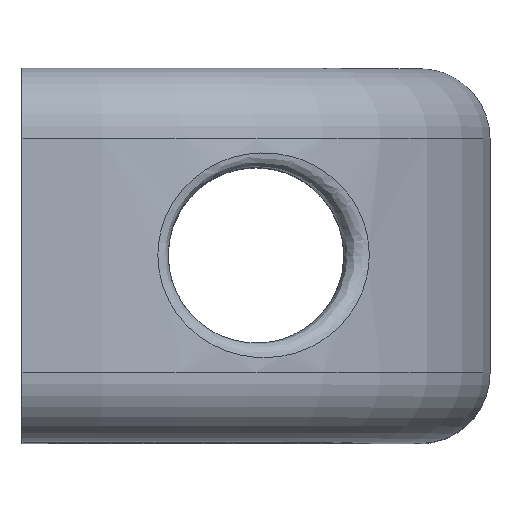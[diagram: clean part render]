
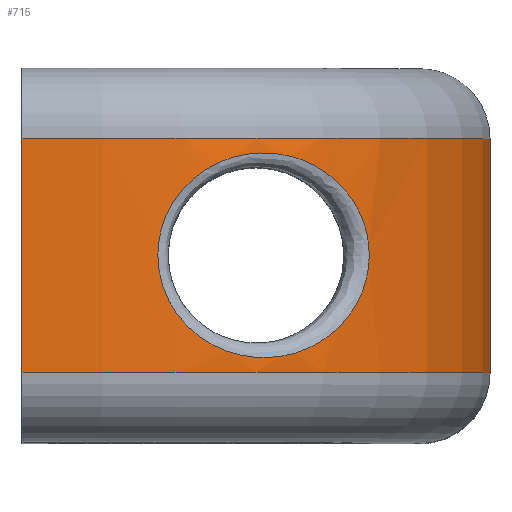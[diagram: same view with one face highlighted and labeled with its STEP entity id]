
A CAD part, top view. The second image highlights one B-rep face of the part: STEP entity #715.
In plain terms, the highlighted cylindrical face has radius 16 mm (diameter 32 mm), a partial arc.
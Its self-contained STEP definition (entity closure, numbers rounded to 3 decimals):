
#30=FACE_BOUND('',#131,.T.);
#37=B_SPLINE_CURVE_WITH_KNOTS('',3,(#1262,#1263,#1264,#1265,#1266,#1267,
#1268,#1269,#1270,#1271,#1272,#1273,#1274,#1275,#1276,#1277,#1278),
 .UNSPECIFIED.,.T.,.F.,(4,1,1,1,1,1,1,1,1,1,1,1,1,1,4),(-1.967,
-1.827,-1.686,-1.405,-1.265,
-1.124,-1.03,-0.937,-0.843,
-0.749,-0.656,-0.562,-0.281,
-0.141,0.),.UNSPECIFIED.);
#84=FACE_OUTER_BOUND('',#130,.T.);
#130=EDGE_LOOP('',(#523,#524,#525,#526));
#131=EDGE_LOOP('',(#527));
#173=LINE('',#1106,#228);
#178=LINE('',#1288,#233);
#228=VECTOR('',#864,8.);
#233=VECTOR('',#899,8.);
#290=CIRCLE('',#786,16.);
#291=CIRCLE('',#787,16.);
#316=VERTEX_POINT('',#1058);
#322=VERTEX_POINT('',#1104);
#327=VERTEX_POINT('',#1242);
#330=VERTEX_POINT('',#1284);
#331=VERTEX_POINT('',#1286);
#391=EDGE_CURVE('',#316,#322,#173,.T.);
#401=EDGE_CURVE('',#327,#327,#37,.T.);
#404=EDGE_CURVE('',#316,#330,#290,.T.);
#405=EDGE_CURVE('',#331,#322,#291,.T.);
#406=EDGE_CURVE('',#331,#330,#178,.T.);
#523=ORIENTED_EDGE('',*,*,#404,.F.);
#524=ORIENTED_EDGE('',*,*,#391,.T.);
#525=ORIENTED_EDGE('',*,*,#405,.F.);
#526=ORIENTED_EDGE('',*,*,#406,.T.);
#527=ORIENTED_EDGE('',*,*,#401,.F.);
#697=CYLINDRICAL_SURFACE('',#785,16.);
#715=ADVANCED_FACE('',(#84,#30),#697,.T.);
#785=AXIS2_PLACEMENT_3D('',#1283,#893,#894);
#786=AXIS2_PLACEMENT_3D('',#1285,#895,#896);
#787=AXIS2_PLACEMENT_3D('',#1287,#897,#898);
#864=DIRECTION('',(0.,-1.,0.));
#893=DIRECTION('center_axis',(0.,-1.,0.));
#894=DIRECTION('ref_axis',(0.,0.,1.));
#895=DIRECTION('center_axis',(0.,1.,0.));
#896=DIRECTION('ref_axis',(0.707,0.,0.707));
#897=DIRECTION('center_axis',(0.,-1.,0.));
#898=DIRECTION('ref_axis',(0.707,0.,0.707));
#899=DIRECTION('',(0.,1.,0.));
#1058=CARTESIAN_POINT('',(0.,4.,16.));
#1104=CARTESIAN_POINT('',(0.,-4.,16.));
#1106=CARTESIAN_POINT('',(0.,0.,16.));
#1242=CARTESIAN_POINT('',(4.645,0.,15.311));
#1262=CARTESIAN_POINT('Ctrl Pts',(4.645,0.,
15.311));
#1263=CARTESIAN_POINT('Ctrl Pts',(4.645,-0.575,15.311));
#1264=CARTESIAN_POINT('Ctrl Pts',(4.94,-1.723,15.223));
#1265=CARTESIAN_POINT('Ctrl Pts',(6.57,-3.438,14.657));
#1266=CARTESIAN_POINT('Ctrl Pts',(8.833,-3.691,13.446));
#1267=CARTESIAN_POINT('Ctrl Pts',(10.558,-2.816,12.051));
#1268=CARTESIAN_POINT('Ctrl Pts',(11.448,-1.814,11.193));
#1269=CARTESIAN_POINT('Ctrl Pts',(11.885,-0.594,10.712));
#1270=CARTESIAN_POINT('Ctrl Pts',(11.887,0.594,10.711));
#1271=CARTESIAN_POINT('Ctrl Pts',(11.509,1.639,11.122));
#1272=CARTESIAN_POINT('Ctrl Pts',(10.903,2.45,11.724));
#1273=CARTESIAN_POINT('Ctrl Pts',(10.127,3.042,12.401));
#1274=CARTESIAN_POINT('Ctrl Pts',(8.639,3.667,13.546));
#1275=CARTESIAN_POINT('Ctrl Pts',(6.576,3.44,14.658));
#1276=CARTESIAN_POINT('Ctrl Pts',(4.941,1.724,15.223));
#1277=CARTESIAN_POINT('Ctrl Pts',(4.645,0.575,15.311));
#1278=CARTESIAN_POINT('Ctrl Pts',(4.645,0.,
15.311));
#1283=CARTESIAN_POINT('Origin',(0.,0.,0.));
#1284=CARTESIAN_POINT('',(16.,4.,0.));
#1285=CARTESIAN_POINT('Origin',(0.,4.,0.));
#1286=CARTESIAN_POINT('',(16.,-4.,0.));
#1287=CARTESIAN_POINT('Origin',(0.,-4.,0.));
#1288=CARTESIAN_POINT('',(16.,0.,0.));
